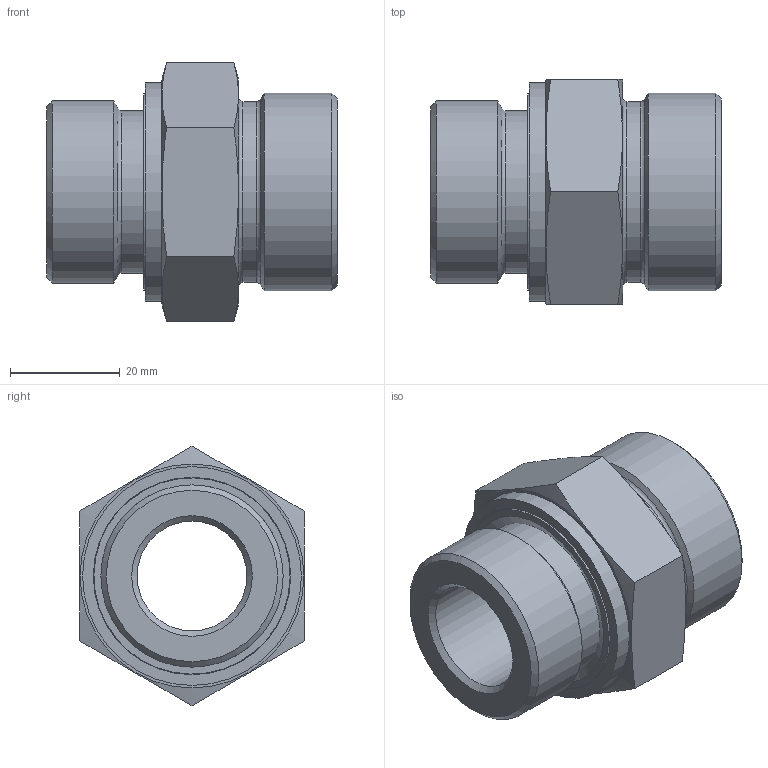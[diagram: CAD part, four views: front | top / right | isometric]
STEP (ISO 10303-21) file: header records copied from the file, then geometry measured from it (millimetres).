
FILE_DESCRIPTION( ( 'Unknown' ), '1' );
FILE_NAME( 'C:/Users/p.nanko/Desktop/3D SR/XGE25SED08.stp', 'Unknown', ( 'Peter Nanko' ), ( 'Armaturen Arndt' ), 'PSStep 14.0', 'Solid Edge ST4', ' ' );
FILE_SCHEMA( ( 'AUTOMOTIVE_DESIGN { 1 0 10303 214 1 1 1 1 }' ) );
Length unit declared in the file: millimetre
Products named in the file (3): Assem1; ED08; XGE25SED083
Assembly tree (2 placements, depth 2):
  Assem1
    ED08
    XGE25SED083
Bounding box: 53 x 41 x 47.34 mm (x, y, z)
Volume: 37100.3 mm3; surface area: 13429.2 mm2
Topology: 2 solids, 2 shells, 38 faces, 75 edges, 46 vertices
Faces by surface type: plane 15, cylinder 10, cone 9, torus 4
Full cylindrical faces by diameter (mm): 20 x1, 25 x1, 29.4 x1, 29.6 x1, 33 x1, 33.249 x1, 35.8 x1, 36 x2, 39.9 x1
Entity records: 1274 total; most frequent: CARTESIAN_POINT 233, DIRECTION 150, ORIENTED_EDGE 98, AXIS2_PLACEMENT_3D 72, EDGE_LOOP 70, FACE_OUTER_BOUND 52, EDGE_CURVE 49, VERTEX_POINT 43
